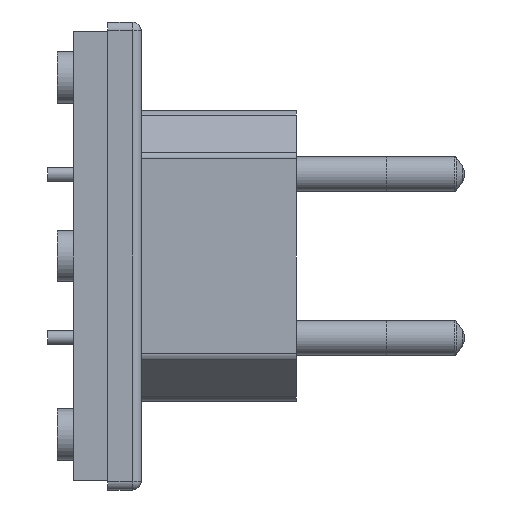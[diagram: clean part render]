
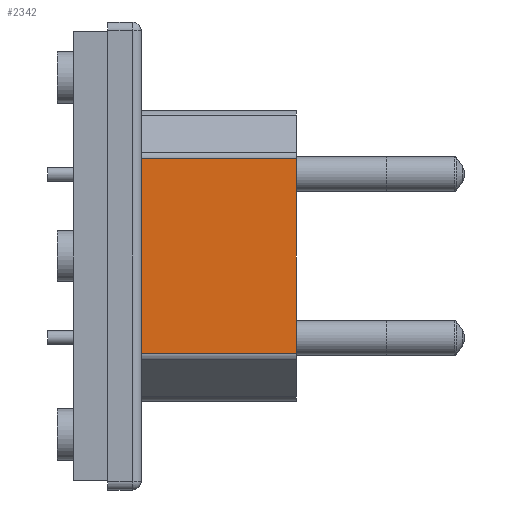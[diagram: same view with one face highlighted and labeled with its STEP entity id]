
A CAD part, left-side view. The second image highlights one B-rep face of the part: STEP entity #2342.
In plain terms, the highlighted planar face has unit normal (-1, 0, 0).
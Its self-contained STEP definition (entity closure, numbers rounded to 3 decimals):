
#50 = DIRECTION ( 'NONE',  ( 0., 1., 0. ) ) ;
#270 = LINE ( 'NONE', #3865, #2315 ) ;
#337 = CARTESIAN_POINT ( 'NONE',  ( -35.65, 0., 11.295 ) ) ;
#543 = VERTEX_POINT ( 'NONE', #3190 ) ;
#548 = AXIS2_PLACEMENT_3D ( 'NONE', #4271, #2480, #2044 ) ;
#557 = CARTESIAN_POINT ( 'NONE',  ( -35.65, -18., 11.75 ) ) ;
#561 = DIRECTION ( 'NONE',  ( 0., 0., -1. ) ) ;
#641 = VERTEX_POINT ( 'NONE', #2841 ) ;
#667 = DIRECTION ( 'NONE',  ( 0., -1., 0. ) ) ;
#670 = CARTESIAN_POINT ( 'NONE',  ( -35.65, -18., 11.295 ) ) ;
#1098 = EDGE_CURVE ( 'NONE', #2488, #641, #3275, .T. ) ;
#1583 = EDGE_CURVE ( 'NONE', #2516, #543, #3753, .T. ) ;
#1662 = DIRECTION ( 'NONE',  ( 0., 0., -1. ) ) ;
#1680 = CARTESIAN_POINT ( 'NONE',  ( -35.65, 0., 11.75 ) ) ;
#1705 = VECTOR ( 'NONE', #561, 1000. ) ;
#1944 = VECTOR ( 'NONE', #50, 1000. ) ;
#2021 = EDGE_LOOP ( 'NONE', ( #2223, #4504, #3985, #2984 ) ) ;
#2044 = DIRECTION ( 'NONE',  ( 0., 0., -1. ) ) ;
#2223 = ORIENTED_EDGE ( 'NONE', *, *, #1583, .F. ) ;
#2315 = VECTOR ( 'NONE', #667, 1000. ) ;
#2342 = ADVANCED_FACE ( 'NONE', ( #3142 ), #4428, .F. ) ;
#2480 = DIRECTION ( 'NONE',  ( 1., 0., 0. ) ) ;
#2488 = VERTEX_POINT ( 'NONE', #337 ) ;
#2516 = VERTEX_POINT ( 'NONE', #4039 ) ;
#2841 = CARTESIAN_POINT ( 'NONE',  ( -35.65, 0., -11.295 ) ) ;
#2940 = EDGE_CURVE ( 'NONE', #2516, #2488, #3961, .T. ) ;
#2984 = ORIENTED_EDGE ( 'NONE', *, *, #3144, .T. ) ;
#3142 = FACE_OUTER_BOUND ( 'NONE', #2021, .T. ) ;
#3144 = EDGE_CURVE ( 'NONE', #641, #543, #270, .T. ) ;
#3190 = CARTESIAN_POINT ( 'NONE',  ( -35.65, -18., -11.295 ) ) ;
#3275 = LINE ( 'NONE', #1680, #4184 ) ;
#3753 = LINE ( 'NONE', #557, #1705 ) ;
#3865 = CARTESIAN_POINT ( 'NONE',  ( -35.65, -18., -11.295 ) ) ;
#3961 = LINE ( 'NONE', #670, #1944 ) ;
#3985 = ORIENTED_EDGE ( 'NONE', *, *, #1098, .T. ) ;
#4039 = CARTESIAN_POINT ( 'NONE',  ( -35.65, -18., 11.295 ) ) ;
#4184 = VECTOR ( 'NONE', #1662, 1000. ) ;
#4271 = CARTESIAN_POINT ( 'NONE',  ( -35.65, -18., 11.75 ) ) ;
#4428 = PLANE ( 'NONE',  #548 ) ;
#4504 = ORIENTED_EDGE ( 'NONE', *, *, #2940, .T. ) ;
